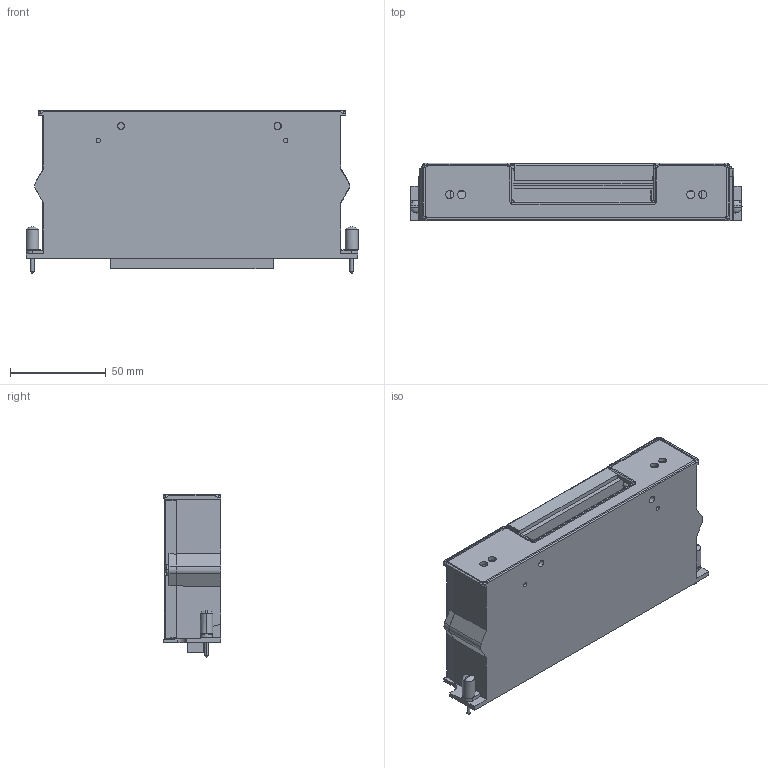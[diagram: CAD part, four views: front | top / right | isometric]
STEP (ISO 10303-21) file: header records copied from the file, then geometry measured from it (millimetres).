
FILE_DESCRIPTION((''),'2;1');
FILE_NAME('CU_TB-1331','2011-08-15T',('jjorden'),(''),'PRO/ENGINEER BY PARAMETRIC TECHNOLOGY CORPORATION, 2010230','PRO/ENGINEER BY PARAMETRIC TECHNOLOGY CORPORATION, 2010230','');
FILE_SCHEMA(('CONFIG_CONTROL_DESIGN'));
Length unit declared in the file: inch
Products named in the file (1): CU_TB-1331
Bounding box: 173.53 x 30.18 x 85.34 mm (x, y, z)
Volume: 113985.4 mm3; surface area: 80307.8 mm2
Topology: 4 solids, 4 shells, 524 faces, 1398 edges, 850 vertices
Faces by surface type: plane 262, cylinder 170, bspline 58, sphere 22, torus 6, cone 6
Entity records: 18797 total; most frequent: CARTESIAN_POINT 6357, ORIENTED_EDGE 2700, DIRECTION 2349, EDGE_CURVE 1350, VERTEX_POINT 888, VECTOR 785, LINE 785, AXIS2_PLACEMENT_3D 782
